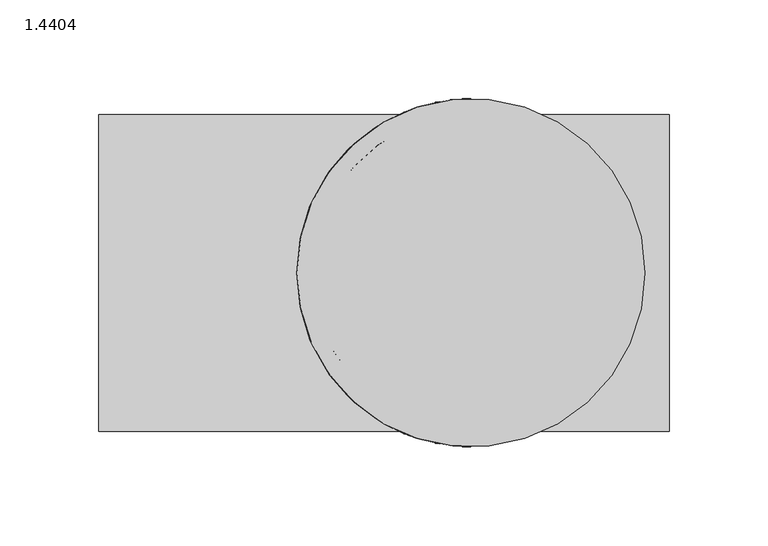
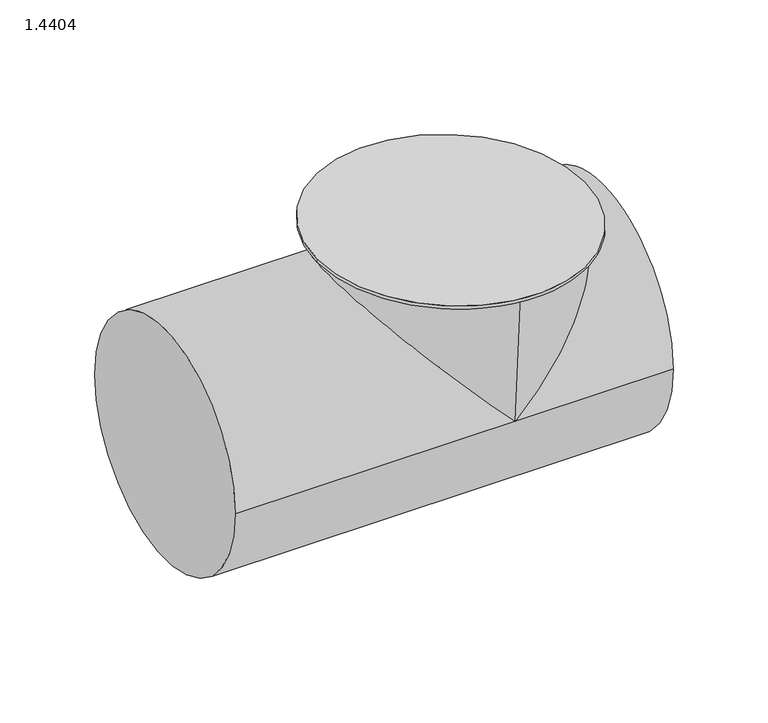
"""IFC4 building model written with IfcOpenShell, lengths in millimetres: pipe fitting geometry, PIF_ST_UN_ACO pipe access unit_ACO : 1.4404."""

import ifcopenshell
import ifcopenshell.guid

model = None  # the IFC model being written
_history = None  # IfcOwnerHistory: only IFC2X3 demands one
_inside = {}  # id of a spatial element -> (the spatial element, [elements in it])
_under = {}  # id of a project, library or spatial element -> (it, [spatial elements below it])
_declared = {}  # id of a project -> (the project, [libraries it declares])
_typed = {}  # id of a type object -> (the type object, [elements of that type])
_made_of = {}  # id of a material, layer set ... -> (it, [elements and type objects made of it])


def new_model(schema):
    """Start an empty IFC model of exactly this schema.

    Asked for "IFC4X3", IfcOpenShell would pick the latest addendum, in which some entities
    have other attributes; the version numbers below select the first issue.
    IFC2X3 requires an IfcOwnerHistory on every rooted entity: one is made here for all.
    """
    global model, _history
    if schema == "IFC4X3":
        model = ifcopenshell.file(schema_version=(4, 3, 0, 0))
    else:
        model = ifcopenshell.file(schema=schema)
    _inside.clear()
    _under.clear()
    _declared.clear()
    _typed.clear()
    _made_of.clear()
    _history = None
    if model.schema == "IFC2X3":
        org = make("IfcOrganization", Name="unknown")
        user = make(
            "IfcPersonAndOrganization",
            ThePerson=make("IfcPerson", FamilyName="unknown"),
            TheOrganization=org,
        )
        app = make(
            "IfcApplication",
            ApplicationDeveloper=org,
            Version="unknown",
            ApplicationFullName="unknown",
            ApplicationIdentifier="unknown",
        )
        _history = make(
            "IfcOwnerHistory",
            OwningUser=user,
            OwningApplication=app,
            ChangeAction="ADDED",
            CreationDate=0,
        )
    return model


def make(cls, **values):
    """One entity of the class cls with the attributes given. An attribute that is None is left unset."""
    return model.create_entity(
        cls, **{name: value for name, value in values.items() if value is not None}
    )


def rooted(cls, **values):
    """An entity with a GlobalId (a new one), such as an element, a storey or a relation."""
    return make(cls, GlobalId=ifcopenshell.guid.new(), OwnerHistory=_history, **values)


def si_unit(unit_type, name, prefix=None):
    """IfcSIUnit, for example si_unit("LENGTHUNIT", "METRE", prefix="MILLI")."""
    return make("IfcSIUnit", UnitType=unit_type, Prefix=prefix, Name=name)


def assignment(units):
    """IfcUnitAssignment: the units of a project."""
    return None if units is None else make("IfcUnitAssignment", Units=units)


def point(xyz):
    """IfcCartesianPoint."""
    return None if xyz is None else make("IfcCartesianPoint", Coordinates=xyz)


def direction(xyz):
    """IfcDirection."""
    return None if xyz is None else make("IfcDirection", DirectionRatios=xyz)


def frame(location, z_axis=None, x_axis=None):
    """IfcAxis2Placement3D, a coordinate frame: its origin and axes. An axis left out is left unset."""
    return make(
        "IfcAxis2Placement3D",
        Location=point(location),
        Axis=direction(z_axis),
        RefDirection=direction(x_axis),
    )


def frame_2d(location, x_axis=None):
    """IfcAxis2Placement2D, a coordinate frame in the plane: its origin and x axis."""
    return make(
        "IfcAxis2Placement2D", Location=point(location), RefDirection=direction(x_axis)
    )


def origin():
    """The frame at (0, 0, 0) with its axes left unset."""
    return frame((0.0, 0.0, 0.0))


def place(relative_to, where):
    """IfcLocalPlacement: puts the frame where relative to a parent placement (None: the world)."""
    return make(
        "IfcLocalPlacement", PlacementRelTo=relative_to, RelativePlacement=where
    )


def context(
    kind, dimensions, precision=None, world=None, true_north=None, identifier=None
):
    """IfcGeometricRepresentationContext, for example the 3D "Model" context."""
    return make(
        "IfcGeometricRepresentationContext",
        ContextIdentifier=identifier,
        ContextType=kind,
        CoordinateSpaceDimension=dimensions,
        Precision=precision,
        WorldCoordinateSystem=world,
        TrueNorth=true_north,
    )


def project(units=None, contexts=None):
    """IfcProject with its units and contexts."""
    return rooted(
        "IfcProject",
        Name="project",
        RepresentationContexts=contexts,
        UnitsInContext=assignment(units),
    )


def spatial(cls, under=None, at=None, **own):
    """A site, building, storey or space (cls), placed at a placement, below another one or the project."""
    s = rooted(cls, ObjectPlacement=at, **own)
    if under is not None:
        _under.setdefault(under.id(), (under, []))[1].append(s)
    return s


def circle_curve(where, radius):
    """IfcCircle in the frame where."""
    return make("IfcCircle", Position=where, Radius=radius)


def ellipse_curve(where, semi_axis1, semi_axis2):
    """IfcEllipse in the frame where."""
    return make(
        "IfcEllipse", Position=where, SemiAxis1=semi_axis1, SemiAxis2=semi_axis2
    )


def trimmed(basis, trim1, trim2, sense, master):
    """IfcTrimmedCurve: the piece of a basis curve between two trims."""
    return make(
        "IfcTrimmedCurve",
        BasisCurve=basis,
        Trim1=trim1,
        Trim2=trim2,
        SenseAgreement=sense,
        MasterRepresentation=master,
    )


def segment(curve, same_sense, transition):
    """IfcCompositeCurveSegment."""
    return make(
        "IfcCompositeCurveSegment",
        Transition=transition,
        SameSense=same_sense,
        ParentCurve=curve,
    )


def composite_curve(segments, self_intersect=None):
    """IfcCompositeCurve: segments joined end to end."""
    return make("IfcCompositeCurve", Segments=segments, SelfIntersect=self_intersect)


def outline(outer, holes=None, kind="AREA"):
    """IfcArbitraryClosedProfileDef: a profile drawn as a closed curve; with holes, ...WithVoids."""
    if holes is None:
        return make("IfcArbitraryClosedProfileDef", ProfileType=kind, OuterCurve=outer)
    return make(
        "IfcArbitraryProfileDefWithVoids",
        ProfileType=kind,
        OuterCurve=outer,
        InnerCurves=holes,
    )


def extrude(swept, where, along, depth):
    """IfcExtrudedAreaSolid: the profile swept, set in the frame where, extruded along a direction by depth."""
    return make(
        "IfcExtrudedAreaSolid",
        SweptArea=swept,
        Position=where,
        ExtrudedDirection=direction(along),
        Depth=depth,
    )


def shape(context_of_items, identifier, shape_type, items):
    """IfcShapeRepresentation: the items that make up one representation, for example the "Body"."""
    return make(
        "IfcShapeRepresentation",
        ContextOfItems=context_of_items,
        RepresentationIdentifier=identifier,
        RepresentationType=shape_type,
        Items=items,
    )


def source(mapping_origin, context_of_items, identifier, shape_type, items):
    """IfcRepresentationMap: a shape defined once, which mapped items show again and again."""
    return make(
        "IfcRepresentationMap",
        MappingOrigin=mapping_origin,
        MappedRepresentation=shape(context_of_items, identifier, shape_type, items),
    )


def transform(
    local_origin,
    x_axis=None,
    y_axis=None,
    z_axis=None,
    scale=None,
    scale2=None,
    scale3=None,
    uniform=True,
):
    """IfcCartesianTransformationOperator3D, or its non-uniform kind. x_axis, y_axis, z_axis: its Axis1, 2, 3."""
    if uniform:
        return make(
            "IfcCartesianTransformationOperator3D",
            Axis1=direction(x_axis),
            Axis2=direction(y_axis),
            LocalOrigin=point(local_origin),
            Scale=scale,
            Axis3=direction(z_axis),
        )
    return make(
        "IfcCartesianTransformationOperator3DnonUniform",
        Axis1=direction(x_axis),
        Axis2=direction(y_axis),
        LocalOrigin=point(local_origin),
        Scale=scale,
        Axis3=direction(z_axis),
        Scale2=scale2,
        Scale3=scale3,
    )


def mapped(mapping_source, mapping_target):
    """IfcMappedItem: shows the shape of a source again, moved by a transform."""
    return make(
        "IfcMappedItem", MappingSource=mapping_source, MappingTarget=mapping_target
    )


def made_of(thing, what):
    """Note that an element or type object is made of a material, layer set ...; save() writes the relation."""
    if what is not None:
        _made_of.setdefault(what.id(), (what, []))[1].append(thing)
    return thing


def element(
    cls,
    number,
    at=None,
    inside=None,
    cuts=None,
    type_object=None,
    material=None,
    context=None,
    identifier="Body",
    shape_type=None,
    held_by="IfcProductDefinitionShape",
    body=None,
    shapes=None,
    **own,
):
    """One element of the class cls, such as IfcWall. Its Tag is "e" and its number.

    at: its placement. inside: the storey or other place that contains it. cuts: it is an
    opening in that element (IfcRelVoidsElement). A single representation is given by context,
    identifier, shape_type and body (its items); several are given by shapes. held_by: the class
    of the entity that holds the representations. save() writes the other relations.
    """
    e = rooted(cls, Tag="e%d" % number, ObjectPlacement=at, **own)
    if body is not None:
        shapes = [shape(context, identifier, shape_type, body)]
    if shapes is not None:
        e.Representation = make(held_by, Representations=shapes)
    if inside is not None:
        _inside.setdefault(inside.id(), (inside, []))[1].append(e)
    if cuts is not None:
        rooted(
            "IfcRelVoidsElement", RelatingBuildingElement=cuts, RelatedOpeningElement=e
        )
    if type_object is not None:
        _typed.setdefault(type_object.id(), (type_object, []))[1].append(e)
    return made_of(e, material)


def aggregate(whole, parts):
    """IfcRelAggregates: a whole, such as a stair, and the parts it consists of."""
    return rooted("IfcRelAggregates", RelatingObject=whole, RelatedObjects=parts)


def save(model, path):
    """Write the relations noted so far, then the file.

    IfcRelAggregates (storeys below a building ...), IfcRelContainedInSpatialStructure (elements
    in a storey), IfcRelDefinesByType, IfcRelAssociatesMaterial and IfcRelDeclares: one each for
    every whole, place, type object, material and project.
    """
    for whole, parts in _under.values():
        aggregate(whole, parts)
    for where, things in _inside.values():
        rooted(
            "IfcRelContainedInSpatialStructure",
            RelatedElements=things,
            RelatingStructure=where,
        )
    for kind, things in _typed.values():
        rooted("IfcRelDefinesByType", RelatedObjects=things, RelatingType=kind)
    for what, things in _made_of.values():
        rooted("IfcRelAssociatesMaterial", RelatedObjects=things, RelatingMaterial=what)
    for by, libraries in _declared.values():
        rooted("IfcRelDeclares", RelatingContext=by, RelatedDefinitions=libraries)
    model.write(path)


def plane_surface(at):
    """IfcPlane: the flat surface through the origin of the frame at, square to its z axis."""
    return make("IfcPlane", Position=at)


def cylinder_surface(at, radius):
    """IfcCylindricalSurface: all points at the distance radius from the z axis of the frame at."""
    return make("IfcCylindricalSurface", Position=at, Radius=radius)


def advanced_brep(points, edges, surfaces, faces):
    """IfcAdvancedBrep: a solid bounded by faces that lie on surfaces and meet in shared edges.

    An edge is (start, end): straight between two places in points (the first is 0);
    or (start, end, curve); or (start, end, curve, False) where it runs against its curve.
    A face is (place in surfaces, loops), or (place, loops, False) where it looks against
    its surface's normal. A loop lists edges by number (the first is 1), with a minus sign
    where the edge is run from its end to its start. The first loop is the outer one.
    """
    corners = [point(p) for p in points]
    vertices = [make("IfcVertexPoint", VertexGeometry=c) for c in corners]
    made = []
    for start, end, *more in edges:
        made.append(
            make(
                "IfcEdgeCurve",
                EdgeStart=vertices[start],
                EdgeEnd=vertices[end],
                EdgeGeometry=more[0] if more else make("IfcPolyline", Points=[corners[start], corners[end]]),
                SameSense=more[1] if len(more) > 1 else True,
            )
        )
    hull = []
    for where, loops, *sense in faces:
        bounds = []
        for j, loop in enumerate(loops):
            ring = [make("IfcOrientedEdge", EdgeElement=made[abs(k) - 1], Orientation=k > 0) for k in loop]
            bounds.append(
                make(
                    "IfcFaceOuterBound" if j == 0 else "IfcFaceBound",
                    Bound=make("IfcEdgeLoop", EdgeList=ring),
                    Orientation=True,
                )
            )
        hull.append(make("IfcAdvancedFace", Bounds=bounds, FaceSurface=surfaces[where], SameSense=sense[0] if sense else True))
    return make("IfcAdvancedBrep", Outer=make("IfcClosedShell", CfsFaces=hull))


def pipe_fitting_1_4404_c54c82ae(model_context):
    return source(origin(), model_context, "Body", "SolidModel", [
        extrude(outline(composite_curve([segment(trimmed(circle_curve(frame_2d((0.0, -88.0)), 88.0), [point((0.0, -176.0))], [point((0.0, 0.0))], False, "CARTESIAN"), True, "CONTINUOUS"), segment(trimmed(circle_curve(frame_2d((0.0, -88.0)), 88.0), [point((0.0, 0.0))], [point((0.0, -176.0))], False, "CARTESIAN"), True, "CONTINUOUS")], self_intersect=False)), frame((91.7547496, 0.0, 84.0777374), z_axis=(0.043619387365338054, 0.0, 0.9990482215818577), x_axis=(0.0, -1.0, 0.0)), (0.0, 0.0, 1.0), 2.0),
        advanced_brep(
        [(3.8385061, 80.0, 87.9162435), (3.8385061, -80.0, 87.9162435), (0.0, -80.0, 0.0), (0.0, 80.0, 0.0), (104.0, -80.0, 0.0), (104.0, 80.0, 0.0), (-184.0, -80.0, 0.0), (-184.0, 80.0, 0.0)],
        [
            (0, 1, circle_curve(frame((3.8385061, 0.0, 87.9162435), z_axis=(0.043619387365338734, 0.0, 0.9990482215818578), x_axis=(0.0, -1.0, 0.0)), 80.0)),
            (1, 0, circle_curve(frame((3.8385061, 0.0, 87.9162435), z_axis=(0.043619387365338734, 0.0, 0.9990482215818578), x_axis=(0.0, -1.0, 0.0)), 80.0)),
            (1, 2),
            (2, 3, ellipse_curve(frame((0.0, 0.0, 0.0), z_axis=(-0.6915130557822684, 0.0, 0.7223639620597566), x_axis=(-0.7223639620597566, 0.0, -0.6915130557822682)), 115.6883436, 80.0)),
            (3, 0),
            (3, 2, ellipse_curve(frame((0.0, 0.0, 0.0), z_axis=(0.7223639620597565, 0.0, 0.6915130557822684), x_axis=(0.6915130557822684, 0.0, -0.7223639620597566)), 110.747496, 80.0)),
            (4, 5, circle_curve(frame((104.0, 0.0, 0.0), z_axis=(1.0, 0.0, 0.0), x_axis=(0.0, 1.0, 0.0)), 80.0)),
            (5, 4, circle_curve(frame((104.0, 0.0, 0.0), z_axis=(1.0, 0.0, 0.0), x_axis=(0.0, 1.0, 0.0)), 80.0)),
            (6, 7, circle_curve(frame((-184.0, 0.0, 0.0), z_axis=(-1.0, 0.0, 0.0), x_axis=(0.0, 1.0, 0.0)), 80.0)),
            (7, 6, circle_curve(frame((-184.0, 0.0, 0.0), z_axis=(-1.0, 0.0, 0.0), x_axis=(0.0, 1.0, 0.0)), 80.0)),
            (4, 2),
            (2, 6),
            (7, 3),
            (3, 5),
        ],
        [
            plane_surface(frame((3.8385061, -80.0, 87.9162435), z_axis=(0.043619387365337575, 0.0, 0.9990482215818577), x_axis=(0.9990482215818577, 0.0, -0.043619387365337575))),
            cylinder_surface(frame((3.8385061, 0.0, 87.9162435), z_axis=(-0.04361938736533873, 0.0, -0.9990482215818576), x_axis=(0.0, -1.0, 0.0)), 80.0),
            plane_surface(frame((104.0, 80.0, 0.0), z_axis=(1.0, 0.0, 0.0), x_axis=(0.0, 0.0, 1.0))),
            plane_surface(frame((-184.0, 80.0, 0.0), z_axis=(-1.0, 0.0, 0.0), x_axis=(0.0, 0.0, -1.0))),
            cylinder_surface(frame((-184.0, 0.0, 0.0), z_axis=(1.0, 0.0, 0.0), x_axis=(0.0, 1.0, 0.0)), 80.0),
        ],
        [
            (0, [[1, 2]]),
            (1, [[-2, 3, 4, 5]]),
            (1, [[-1, -5, 6, -3]]),
            (2, [[7, 8]]),
            (3, [[9, 10]]),
            (4, [[-7, 11, 12, -10, 13, 14]]),
            (4, [[-8, -14, -4, -11]]),
            (4, [[-9, -12, -6, -13]]),
        ],
    ),
    ])


if __name__ == "__main__":
    model = new_model("IFC4")
    model_context = context("Model", 3, world=origin())
    ifc_project = project(units=[si_unit("LENGTHUNIT", "METRE", prefix="MILLI")], contexts=[model_context])
    site = spatial("IfcSite", under=ifc_project)
    building = spatial("IfcBuilding", under=site)
    placement = place(None, origin())
    pipe_fitting_1_4404_shape = pipe_fitting_1_4404_c54c82ae(model_context)
    element("IfcPipeFitting", 1, ObjectType="PIF_ST_UN_ACO pipe access unit_ACO : 1.4404", at=placement, inside=building, context=model_context, shape_type="MappedRepresentation", body=[
        mapped(pipe_fitting_1_4404_shape, transform((0.0, 0.0, 0.0), x_axis=(1.0, 0.0, 0.0), y_axis=(0.0, 1.0, 0.0), z_axis=(0.0, 0.0, 1.0))),
    ])
    save(model, "model.ifc")
